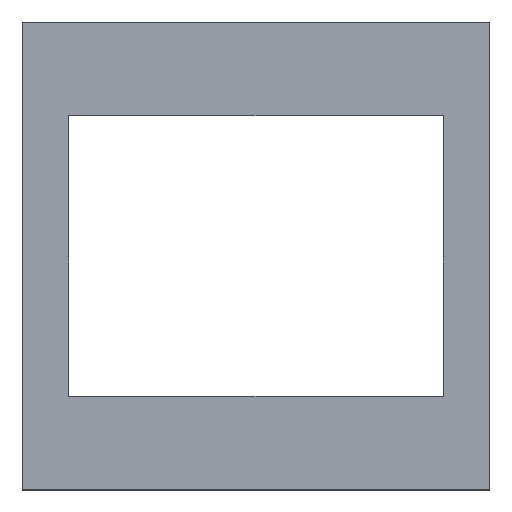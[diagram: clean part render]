
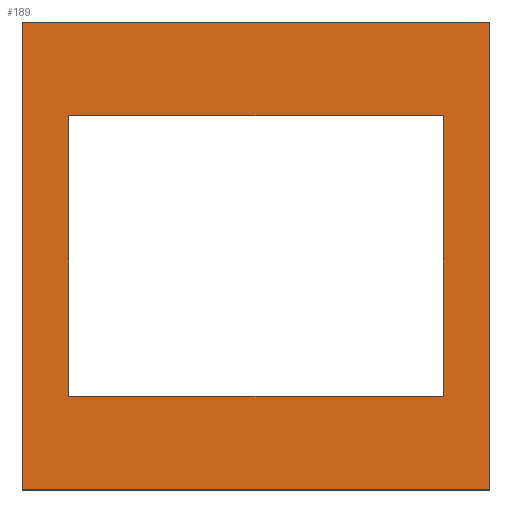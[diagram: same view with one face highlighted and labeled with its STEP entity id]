
A CAD part, top view. The second image highlights one B-rep face of the part: STEP entity #189.
In plain terms, the highlighted planar face has unit normal (0, 0, 1).
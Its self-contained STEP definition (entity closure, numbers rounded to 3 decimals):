
#15=FACE_BOUND('',#32,.T.);
#21=FACE_OUTER_BOUND('',#31,.T.);
#31=EDGE_LOOP('',(#143,#144,#145,#146));
#32=EDGE_LOOP('',(#147,#148,#149,#150));
#39=LINE('',#269,#63);
#43=LINE('',#277,#67);
#46=LINE('',#283,#70);
#49=LINE('',#288,#73);
#51=LINE('',#293,#75);
#52=LINE('',#295,#76);
#53=LINE('',#297,#77);
#54=LINE('',#298,#78);
#63=VECTOR('',#223,10.);
#67=VECTOR('',#229,10.);
#70=VECTOR('',#234,10.);
#73=VECTOR('',#239,10.);
#75=VECTOR('',#243,10.);
#76=VECTOR('',#244,10.);
#77=VECTOR('',#245,10.);
#78=VECTOR('',#246,10.);
#87=VERTEX_POINT('',#267);
#88=VERTEX_POINT('',#268);
#91=VERTEX_POINT('',#276);
#93=VERTEX_POINT('',#282);
#95=VERTEX_POINT('',#291);
#96=VERTEX_POINT('',#292);
#97=VERTEX_POINT('',#294);
#98=VERTEX_POINT('',#296);
#103=EDGE_CURVE('',#87,#88,#39,.T.);
#107=EDGE_CURVE('',#88,#91,#43,.T.);
#110=EDGE_CURVE('',#91,#93,#46,.T.);
#113=EDGE_CURVE('',#93,#87,#49,.T.);
#115=EDGE_CURVE('',#95,#96,#51,.T.);
#116=EDGE_CURVE('',#96,#97,#52,.T.);
#117=EDGE_CURVE('',#97,#98,#53,.T.);
#118=EDGE_CURVE('',#98,#95,#54,.T.);
#143=ORIENTED_EDGE('',*,*,#115,.T.);
#144=ORIENTED_EDGE('',*,*,#116,.T.);
#145=ORIENTED_EDGE('',*,*,#117,.T.);
#146=ORIENTED_EDGE('',*,*,#118,.T.);
#147=ORIENTED_EDGE('',*,*,#110,.T.);
#148=ORIENTED_EDGE('',*,*,#113,.T.);
#149=ORIENTED_EDGE('',*,*,#103,.T.);
#150=ORIENTED_EDGE('',*,*,#107,.T.);
#179=PLANE('',#213);
#189=ADVANCED_FACE('',(#21,#15),#179,.T.);
#213=AXIS2_PLACEMENT_3D('',#290,#241,#242);
#223=DIRECTION('',(1.,0.,0.));
#229=DIRECTION('',(0.,-1.,0.));
#234=DIRECTION('',(-1.,0.,0.));
#239=DIRECTION('',(0.,1.,0.));
#241=DIRECTION('center_axis',(0.,0.,1.));
#242=DIRECTION('ref_axis',(1.,0.,0.));
#243=DIRECTION('',(0.,1.,0.));
#244=DIRECTION('',(-1.,0.,0.));
#245=DIRECTION('',(0.,-1.,0.));
#246=DIRECTION('',(1.,0.,0.));
#267=CARTESIAN_POINT('',(-4.,-44.,-7.1));
#268=CARTESIAN_POINT('',(4.,-44.,-7.1));
#269=CARTESIAN_POINT('',(0.,-44.,-7.1));
#276=CARTESIAN_POINT('',(4.,-50.,-7.1));
#277=CARTESIAN_POINT('',(4.,-47.,-7.1));
#282=CARTESIAN_POINT('',(-4.,-50.,-7.1));
#283=CARTESIAN_POINT('',(0.,-50.,-7.1));
#288=CARTESIAN_POINT('',(-4.,-47.,-7.1));
#290=CARTESIAN_POINT('Origin',(0.,-47.,-7.1));
#291=CARTESIAN_POINT('',(5.,-52.,-7.1));
#292=CARTESIAN_POINT('',(5.,-42.,-7.1));
#293=CARTESIAN_POINT('',(5.,-47.,-7.1));
#294=CARTESIAN_POINT('',(-5.,-42.,-7.1));
#295=CARTESIAN_POINT('',(0.,-42.,-7.1));
#296=CARTESIAN_POINT('',(-5.,-52.,-7.1));
#297=CARTESIAN_POINT('',(-5.,-47.,-7.1));
#298=CARTESIAN_POINT('',(0.,-52.,-7.1));
